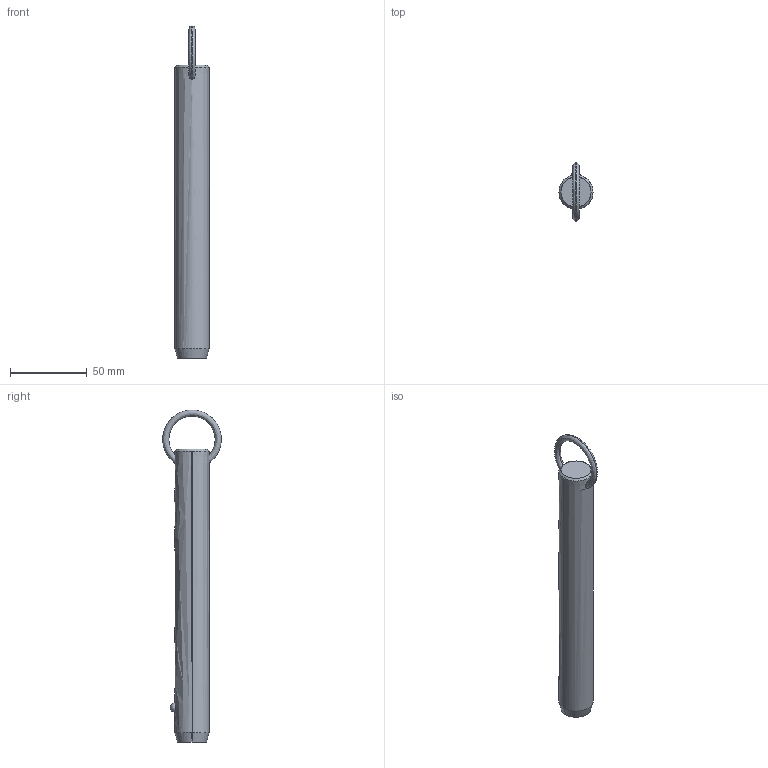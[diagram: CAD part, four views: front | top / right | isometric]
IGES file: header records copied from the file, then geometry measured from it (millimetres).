
Start section: SolidWorks IGES file using analytic representation for surfaces
Global section: file name: C:\Users\liam_\OneDrive\Documents\WORK\Work for WixRoyd\Job Files\J-00019 - Matt Davis CAD Checking\04. CAD Drawings\automotion20190605\P1250.2_v2\P1250.2_v2_20190729_IGES\P1250.087-600.igs; native system: SolidWorks 2017; preprocessor: SolidWorks 2017; author: liam_; date: 190730.002147; units: millimetre
Bounding box: 22.2 x 38.07 x 215.9 mm (x, y, z)
Surface area: 14929.9 mm2 (no closed solid volume)
Topology: 0 solids, 0 shells, 12 faces, 302 edges, 300 vertices
Faces by surface type: revolution 8, bspline 4
